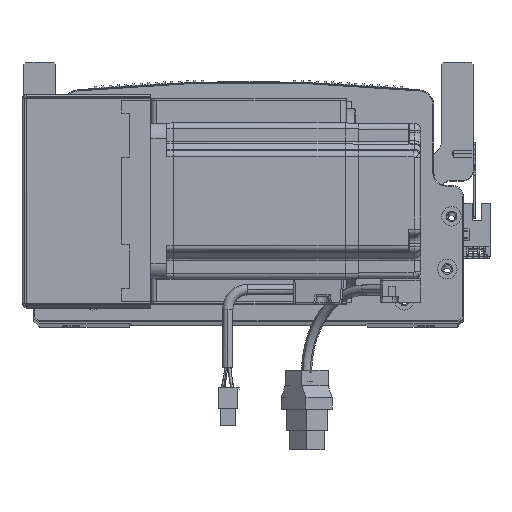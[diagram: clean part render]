
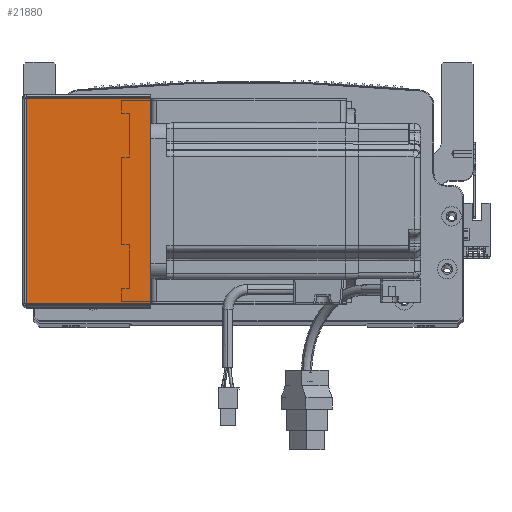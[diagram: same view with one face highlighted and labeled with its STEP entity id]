
A CAD part, top view. The second image highlights one B-rep face of the part: STEP entity #21880.
In plain terms, the highlighted planar face has unit normal (0, 0, 1) as drawn and (0, 0, -1) by its records, which use the part's own axes.
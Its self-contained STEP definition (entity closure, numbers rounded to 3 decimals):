
#53 = DIRECTION ( 'NONE',  ( 1., 0., 0. ) ) ;
#1931 = CARTESIAN_POINT ( 'NONE',  ( 64.5, 0.707, -205.5 ) ) ;
#3514 = LINE ( 'NONE', #79983, #56179 ) ;
#3577 = VECTOR ( 'NONE', #69030, 1000. ) ;
#5904 = DIRECTION ( 'NONE',  ( 0., -1., 0. ) ) ;
#6598 = ORIENTED_EDGE ( 'NONE', *, *, #34989, .F. ) ;
#10173 = VERTEX_POINT ( 'NONE', #84998 ) ;
#11552 = EDGE_CURVE ( 'NONE', #16063, #42081, #3514, .T. ) ;
#15545 = CARTESIAN_POINT ( 'NONE',  ( 0.737, 105.293, -205.5 ) ) ;
#16063 = VERTEX_POINT ( 'NONE', #15545 ) ;
#21880 = ADVANCED_FACE ( 'NONE', ( #57167 ), #64133, .F. ) ;
#23518 = DIRECTION ( 'NONE',  ( 1., 0., 0. ) ) ;
#31786 = EDGE_LOOP ( 'NONE', ( #6598, #57741, #76855, #62951 ) ) ;
#32647 = LINE ( 'NONE', #71363, #35808 ) ;
#34989 = EDGE_CURVE ( 'NONE', #16063, #10173, #53083, .T. ) ;
#35808 = VECTOR ( 'NONE', #5904, 1000. ) ;
#36503 = VECTOR ( 'NONE', #63063, 1000. ) ;
#42081 = VERTEX_POINT ( 'NONE', #47316 ) ;
#42311 = AXIS2_PLACEMENT_3D ( 'NONE', #62999, #82632, #23518 ) ;
#46214 = EDGE_CURVE ( 'NONE', #42081, #82217, #32647, .T. ) ;
#47316 = CARTESIAN_POINT ( 'NONE',  ( 64.5, 105.293, -205.5 ) ) ;
#50059 = CARTESIAN_POINT ( 'NONE',  ( 0., 0.707, -205.5 ) ) ;
#53083 = LINE ( 'NONE', #69313, #3577 ) ;
#56016 = EDGE_CURVE ( 'NONE', #10173, #82217, #56080, .T. ) ;
#56080 = LINE ( 'NONE', #50059, #36503 ) ;
#56179 = VECTOR ( 'NONE', #53, 1000. ) ;
#57167 = FACE_OUTER_BOUND ( 'NONE', #31786, .T. ) ;
#57741 = ORIENTED_EDGE ( 'NONE', *, *, #11552, .T. ) ;
#62951 = ORIENTED_EDGE ( 'NONE', *, *, #56016, .F. ) ;
#62999 = CARTESIAN_POINT ( 'NONE',  ( 0., 0., -205.5 ) ) ;
#63063 = DIRECTION ( 'NONE',  ( 1., 0., 0. ) ) ;
#64133 = PLANE ( 'NONE',  #42311 ) ;
#69030 = DIRECTION ( 'NONE',  ( 0., -1., 0. ) ) ;
#69313 = CARTESIAN_POINT ( 'NONE',  ( 0.737, 0., -205.5 ) ) ;
#71363 = CARTESIAN_POINT ( 'NONE',  ( 64.5, 0., -205.5 ) ) ;
#76855 = ORIENTED_EDGE ( 'NONE', *, *, #46214, .T. ) ;
#79983 = CARTESIAN_POINT ( 'NONE',  ( 0., 105.293, -205.5 ) ) ;
#82217 = VERTEX_POINT ( 'NONE', #1931 ) ;
#82632 = DIRECTION ( 'NONE',  ( 0., 0., 1. ) ) ;
#84998 = CARTESIAN_POINT ( 'NONE',  ( 0.737, 0.707, -205.5 ) ) ;
